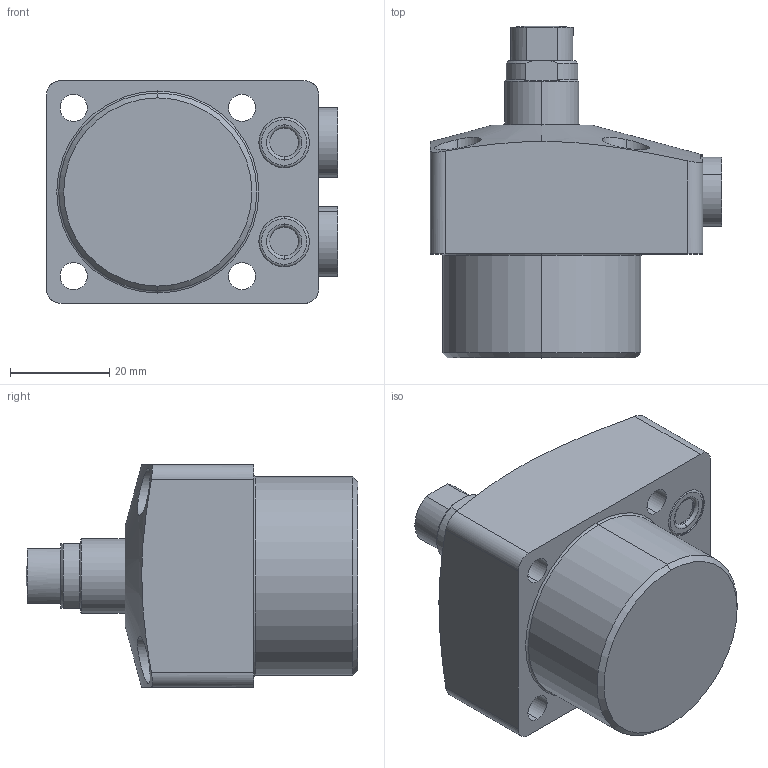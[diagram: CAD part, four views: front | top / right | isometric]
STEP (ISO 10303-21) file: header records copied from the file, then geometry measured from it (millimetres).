
FILE_DESCRIPTION(/* description */ (''),/* implementation_level */ '2;1');
FILE_NAME(/* name */ 'FSS04.stp',/* time_stamp */ '2022-11-16T13:50:39+08:00',/* author */ (''),/* organization */ (''),/* preprocessor_version */ 'ST-DEVELOPER v16.7',/* originating_system */ 'SIEMENS PLM Software NX 12.0',/* authorisation */ '');
FILE_SCHEMA (('AP203_CONFIGURATION_CONTROLLED_3D_DESIGN_OF_MECHANICAL_PARTS_AND_ASSEMBLIES_MIM_LF { 1 0 10303 403 2 1 2}'));
Length unit declared in the file: millimetre
Products named in the file (5): FSS04-02; FSS04-01; FSS04-04; FSS04-03; CST04_step
Assembly tree (5 placements, depth 2):
  CST04_step
    FSS04-03
    FSS04-04  x2
    FSS04-01
    FSS04-02
Bounding box: 58.8 x 67 x 45 mm (x, y, z)
Volume: 82153.2 mm3; surface area: 18468.9 mm2
Topology: 5 solids, 7 shells, 197 faces, 430 edges, 265 vertices
Faces by surface type: cylinder 82, plane 55, torus 30, cone 28, sphere 2
Entity records: 5643 total; most frequent: CARTESIAN_POINT 1010, DIRECTION 942, ORIENTED_EDGE 776, AXIS2_PLACEMENT_3D 405, EDGE_CURVE 388, VERTEX_POINT 239, CIRCLE 222, EDGE_LOOP 207
